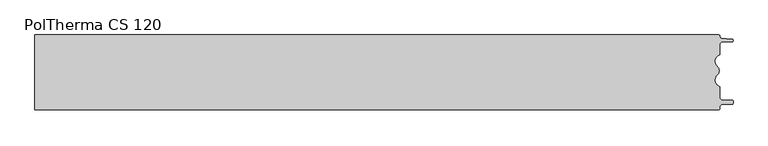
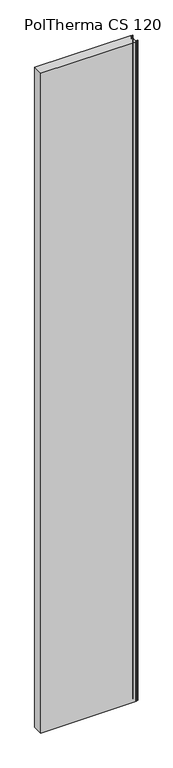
"""IFC4 building model written with IfcOpenShell, lengths in millimetres: plate geometry, Europanels_Poltherma CS_Vt : PolTherma CS 120."""

from ifc_helpers import new_model, si_unit, point, frame_2d, origin, origin_with_axes, place, context, project, spatial, polyline, circle_curve, trimmed, segment, composite_curve, outline, extrude, source, transform, mapped, element, save


def poltherma_cs_120_21748652(model_context):
    return source(origin(), model_context, "Body", "SweptSolid", [
        extrude(outline(composite_curve([segment(trimmed(circle_curve(frame_2d((546.5011047, 58.0)), 2.0), [point((546.5011047, 60.0))], [point((548.5011047, 58.0))], False, "CARTESIAN"), True, "CONTINUOUS"), segment(polyline([(548.5011047, 58.0), (548.5011047, 56.2557869)]), True, "CONTINUOUS"), segment(trimmed(circle_curve(frame_2d((550.5011047, 56.2557869)), 2.0), [point((548.5011047, 56.2557869))], [point((550.3765791, 54.2596673))], True, "CARTESIAN"), True, "CONTINUOUS"), segment(polyline([(550.3765791, 54.2596673), (567.4693321, 53.1933562)]), True, "CONTINUOUS"), segment(trimmed(circle_curve(frame_2d((567.3344166, 51.0306882)), 2.1668722), [point((567.4693321, 53.1933562))], [point((567.4303304, 48.8659398))], False, "CARTESIAN"), True, "CONTINUOUS"), segment(polyline([(567.4303304, 48.8659398), (550.4152514, 48.1120505)]), True, "CONTINUOUS"), segment(trimmed(circle_curve(frame_2d((550.5011047, 46.113894)), 2.0), [point((550.4152514, 48.1120505))], [point((548.5011047, 46.113894))], True, "CARTESIAN"), True, "CONTINUOUS"), segment(polyline([(548.5011047, 46.113894), (548.5011047, 28.3234285)]), True, "CONTINUOUS"), segment(trimmed(circle_curve(frame_2d((551.354658, 17.7)), 11.0), [point((548.5011047, 28.3234285))], [point((544.0788419, 9.45))], True, "CARTESIAN"), True, "CONTINUOUS"), segment(trimmed(circle_curve(frame_2d((538.1259015, 2.7)), 9.0), [point((544.0788419, 9.45))], [point((544.0788419, -4.05))], False, "CARTESIAN"), True, "CONTINUOUS"), segment(trimmed(circle_curve(frame_2d((551.354658, -12.3)), 11.0), [point((544.0788419, -4.05))], [point((548.5011047, -22.9234285))], True, "CARTESIAN"), True, "CONTINUOUS"), segment(polyline([(548.5011047, -22.9234285), (548.5011047, -41.9117672)]), True, "CONTINUOUS"), segment(trimmed(circle_curve(frame_2d((550.3011047, -41.9117672)), 1.8), [point((548.5011047, -41.9117672))], [point((550.2244834, -43.7101357))], True, "CARTESIAN"), True, "CONTINUOUS"), segment(polyline([(550.2244834, -43.7101357), (567.5862394, -44.4498501)]), True, "CONTINUOUS"), segment(trimmed(circle_curve(frame_2d((567.5011047, -46.4480373)), 2.0), [point((567.5862394, -44.4498501))], [point((569.5011047, -46.4480373))], False, "CARTESIAN"), True, "CONTINUOUS"), segment(polyline([(569.5011047, -46.4480373), (569.5011047, -49.1874198)]), True, "CONTINUOUS"), segment(trimmed(circle_curve(frame_2d((567.5011047, -49.1874198)), 2.0), [point((569.5011047, -49.1874198))], [point((567.624345, -51.1836192))], False, "CARTESIAN"), True, "CONTINUOUS"), segment(polyline([(567.624345, -51.1836192), (550.3778643, -52.2483736)]), True, "CONTINUOUS"), segment(trimmed(circle_curve(frame_2d((550.5011047, -54.244573)), 2.0), [point((550.3778643, -52.2483736))], [point((548.5011047, -54.244573))], True, "CARTESIAN"), True, "CONTINUOUS"), segment(polyline([(548.5011047, -54.244573), (548.5011047, -58.0)]), True, "CONTINUOUS"), segment(trimmed(circle_curve(frame_2d((546.5011047, -58.0)), 2.0), [point((548.5011047, -58.0))], [point((546.5011047, -60.0))], False, "CARTESIAN"), True, "CONTINUOUS"), segment(polyline([(546.5011047, -60.0), (-550.0, -60.0), (-550.0, 60.0), (546.5011047, 60.0)]), True, "CONTINUOUS")], self_intersect=False)), origin_with_axes(), (0.0, 0.0, 1.0), 8000.0),
    ])


if __name__ == "__main__":
    model = new_model("IFC4")
    model_context = context("Model", 3, world=origin())
    ifc_project = project(units=[si_unit("LENGTHUNIT", "METRE", prefix="MILLI")], contexts=[model_context])
    site = spatial("IfcSite", under=ifc_project)
    building = spatial("IfcBuilding", under=site)
    placement = place(None, origin())
    poltherma_cs_120_shape = poltherma_cs_120_21748652(model_context)
    element("IfcPlate", 1, ObjectType="Europanels_Poltherma CS_Vt : PolTherma CS 120", at=placement, inside=building, context=model_context, shape_type="MappedRepresentation", body=[
        mapped(poltherma_cs_120_shape, transform((0.0, 0.0, 0.0), x_axis=(1.0, 0.0, 0.0), y_axis=(0.0, 1.0, 0.0), z_axis=(0.0, 0.0, 1.0))),
    ])
    save(model, "model.ifc")
